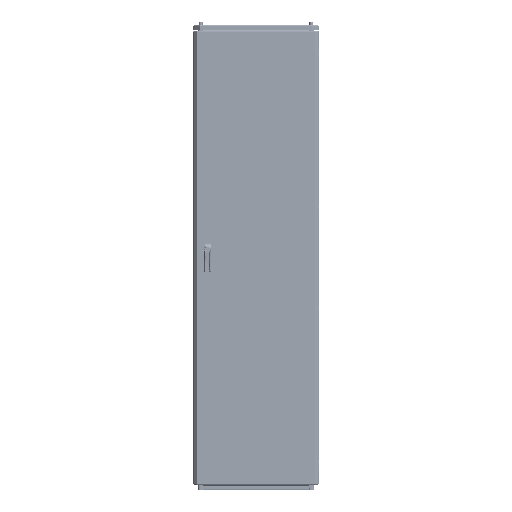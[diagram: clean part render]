
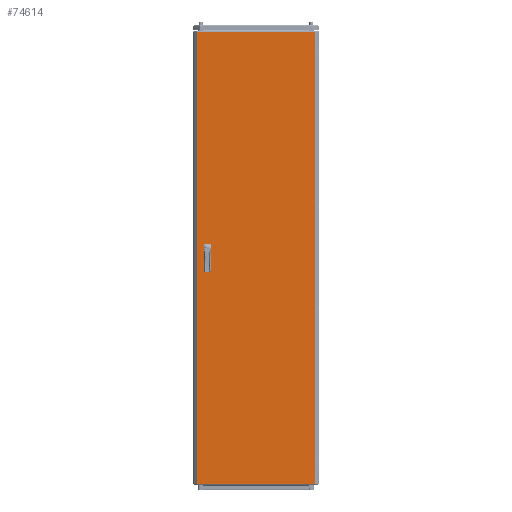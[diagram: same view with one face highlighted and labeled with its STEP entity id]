
A CAD part, top view. The second image highlights one B-rep face of the part: STEP entity #74614.
In plain terms, the highlighted planar face has unit normal (0, 0, 1).
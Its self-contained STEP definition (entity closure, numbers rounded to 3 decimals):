
#566 = CARTESIAN_POINT ( 'NONE',  ( -277.875, 1069.5, 0. ) ) ;
#1521 = CARTESIAN_POINT ( 'NONE',  ( -217.5, 12.5, 0. ) ) ;
#2499 = LINE ( 'NONE', #24052, #220659 ) ;
#5992 = CARTESIAN_POINT ( 'NONE',  ( -217.5, 12.5, 0. ) ) ;
#8993 = ORIENTED_EDGE ( 'NONE', *, *, #128355, .F. ) ;
#12618 = LINE ( 'NONE', #90049, #149383 ) ;
#13676 = CARTESIAN_POINT ( 'NONE',  ( -217.5, 62.5, 0. ) ) ;
#14215 = ORIENTED_EDGE ( 'NONE', *, *, #154671, .F. ) ;
#14732 = DIRECTION ( 'NONE',  ( 0., -1., 0. ) ) ;
#23560 = CARTESIAN_POINT ( 'NONE',  ( 0., 0., 0. ) ) ;
#24052 = CARTESIAN_POINT ( 'NONE',  ( -242.5, -12.5, 0. ) ) ;
#27271 = VECTOR ( 'NONE', #248994, 1000. ) ;
#28678 = VECTOR ( 'NONE', #154852, 1000. ) ;
#33123 = VERTEX_POINT ( 'NONE', #199827 ) ;
#33244 = VECTOR ( 'NONE', #160189, 1000. ) ;
#34780 = EDGE_CURVE ( 'NONE', #221251, #87042, #190807, .T. ) ;
#38385 = CARTESIAN_POINT ( 'NONE',  ( -217.5, -62.5, 0. ) ) ;
#38667 = LINE ( 'NONE', #566, #178479 ) ;
#40114 = DIRECTION ( 'NONE',  ( 0., 0., -1. ) ) ;
#41814 = ORIENTED_EDGE ( 'NONE', *, *, #226623, .T. ) ;
#46475 = VERTEX_POINT ( 'NONE', #120605 ) ;
#49004 = EDGE_LOOP ( 'NONE', ( #60722, #242289, #41814, #221838 ) ) ;
#49808 = VERTEX_POINT ( 'NONE', #137464 ) ;
#58101 = VERTEX_POINT ( 'NONE', #85075 ) ;
#60722 = ORIENTED_EDGE ( 'NONE', *, *, #116975, .T. ) ;
#66853 = ORIENTED_EDGE ( 'NONE', *, *, #34780, .F. ) ;
#67558 = CARTESIAN_POINT ( 'NONE',  ( -217.5, -12.5, 0. ) ) ;
#67959 = VERTEX_POINT ( 'NONE', #171239 ) ;
#74614 = ADVANCED_FACE ( 'NONE', ( #197517, #103515, #158238 ), #80727, .F. ) ;
#77366 = CARTESIAN_POINT ( 'NONE',  ( -242.5, -62.5, 0. ) ) ;
#78154 = EDGE_CURVE ( 'NONE', #46475, #221251, #12618, .T. ) ;
#80727 = PLANE ( 'NONE',  #160445 ) ;
#85075 = CARTESIAN_POINT ( 'NONE',  ( -242.5, 62.5, 0. ) ) ;
#86837 = LINE ( 'NONE', #88070, #238210 ) ;
#87042 = VERTEX_POINT ( 'NONE', #67558 ) ;
#87470 = ORIENTED_EDGE ( 'NONE', *, *, #103875, .F. ) ;
#88070 = CARTESIAN_POINT ( 'NONE',  ( -277.875, -1069.5, 0. ) ) ;
#90049 = CARTESIAN_POINT ( 'NONE',  ( -242.5, -62.5, 0. ) ) ;
#90473 = EDGE_LOOP ( 'NONE', ( #8993, #87470, #144448, #14215 ) ) ;
#91420 = DIRECTION ( 'NONE',  ( 1., 0., 0. ) ) ;
#96489 = VECTOR ( 'NONE', #91420, 1000. ) ;
#103515 = FACE_BOUND ( 'NONE', #187463, .T. ) ;
#103875 = EDGE_CURVE ( 'NONE', #233019, #114229, #112078, .T. ) ;
#107530 = LINE ( 'NONE', #77366, #28678 ) ;
#109235 = CARTESIAN_POINT ( 'NONE',  ( -217.5, -62.5, 0. ) ) ;
#111743 = CARTESIAN_POINT ( 'NONE',  ( -242.5, 12.5, 0. ) ) ;
#112078 = LINE ( 'NONE', #1521, #226584 ) ;
#114229 = VERTEX_POINT ( 'NONE', #13676 ) ;
#116975 = EDGE_CURVE ( 'NONE', #217902, #204511, #250244, .T. ) ;
#118585 = VECTOR ( 'NONE', #170546, 1000. ) ;
#120243 = EDGE_CURVE ( 'NONE', #204511, #33123, #38667, .T. ) ;
#120605 = CARTESIAN_POINT ( 'NONE',  ( -242.5, -62.5, 0. ) ) ;
#128355 = EDGE_CURVE ( 'NONE', #114229, #58101, #213105, .T. ) ;
#129644 = CARTESIAN_POINT ( 'NONE',  ( 277.875, -1069.5, 0. ) ) ;
#135638 = CARTESIAN_POINT ( 'NONE',  ( -242.5, 62.5, 0. ) ) ;
#136157 = DIRECTION ( 'NONE',  ( 0., 1., 0. ) ) ;
#137464 = CARTESIAN_POINT ( 'NONE',  ( -242.5, -12.5, 0. ) ) ;
#144448 = ORIENTED_EDGE ( 'NONE', *, *, #197143, .F. ) ;
#149383 = VECTOR ( 'NONE', #172585, 1000. ) ;
#149955 = CARTESIAN_POINT ( 'NONE',  ( 277.875, -1069.5, 0. ) ) ;
#154474 = EDGE_CURVE ( 'NONE', #246993, #217902, #86837, .T. ) ;
#154671 = EDGE_CURVE ( 'NONE', #58101, #67959, #214065, .T. ) ;
#154852 = DIRECTION ( 'NONE',  ( 0., -1., 0. ) ) ;
#158238 = FACE_OUTER_BOUND ( 'NONE', #49004, .T. ) ;
#158466 = DIRECTION ( 'NONE',  ( -1., 0., 0. ) ) ;
#160189 = DIRECTION ( 'NONE',  ( 0., -1., 0. ) ) ;
#160260 = EDGE_CURVE ( 'NONE', #49808, #46475, #107530, .T. ) ;
#160445 = AXIS2_PLACEMENT_3D ( 'NONE', #23560, #40114, #235698 ) ;
#164113 = EDGE_CURVE ( 'NONE', #87042, #49808, #2499, .T. ) ;
#164734 = CARTESIAN_POINT ( 'NONE',  ( 277.875, 1069.5, 0. ) ) ;
#170546 = DIRECTION ( 'NONE',  ( 0., 1., 0. ) ) ;
#171239 = CARTESIAN_POINT ( 'NONE',  ( -242.5, 12.5, 0. ) ) ;
#172259 = VECTOR ( 'NONE', #158466, 1000. ) ;
#172585 = DIRECTION ( 'NONE',  ( 1., 0., 0. ) ) ;
#174726 = CARTESIAN_POINT ( 'NONE',  ( -242.5, 12.5, 0. ) ) ;
#178013 = CARTESIAN_POINT ( 'NONE',  ( -277.875, -1069.5, 0. ) ) ;
#178479 = VECTOR ( 'NONE', #249561, 1000. ) ;
#185413 = VECTOR ( 'NONE', #14732, 1000. ) ;
#185880 = DIRECTION ( 'NONE',  ( 1., 0., 0. ) ) ;
#187463 = EDGE_LOOP ( 'NONE', ( #199303, #66853, #205725, #226010 ) ) ;
#188526 = CARTESIAN_POINT ( 'NONE',  ( -277.875, -1069.5, 0. ) ) ;
#190807 = LINE ( 'NONE', #38385, #118585 ) ;
#197143 = EDGE_CURVE ( 'NONE', #67959, #233019, #226078, .T. ) ;
#197517 = FACE_BOUND ( 'NONE', #90473, .T. ) ;
#199303 = ORIENTED_EDGE ( 'NONE', *, *, #164113, .F. ) ;
#199827 = CARTESIAN_POINT ( 'NONE',  ( -277.875, 1069.5, 0. ) ) ;
#204511 = VERTEX_POINT ( 'NONE', #164734 ) ;
#205725 = ORIENTED_EDGE ( 'NONE', *, *, #78154, .F. ) ;
#213105 = LINE ( 'NONE', #135638, #172259 ) ;
#214065 = LINE ( 'NONE', #174726, #185413 ) ;
#214619 = DIRECTION ( 'NONE',  ( -1., 0., 0. ) ) ;
#217902 = VERTEX_POINT ( 'NONE', #129644 ) ;
#220659 = VECTOR ( 'NONE', #214619, 1000. ) ;
#221251 = VERTEX_POINT ( 'NONE', #109235 ) ;
#221838 = ORIENTED_EDGE ( 'NONE', *, *, #154474, .T. ) ;
#226010 = ORIENTED_EDGE ( 'NONE', *, *, #160260, .F. ) ;
#226078 = LINE ( 'NONE', #111743, #96489 ) ;
#226584 = VECTOR ( 'NONE', #136157, 1000. ) ;
#226623 = EDGE_CURVE ( 'NONE', #33123, #246993, #236416, .T. ) ;
#233019 = VERTEX_POINT ( 'NONE', #5992 ) ;
#235698 = DIRECTION ( 'NONE',  ( -1., 0., 0. ) ) ;
#236416 = LINE ( 'NONE', #178013, #33244 ) ;
#238210 = VECTOR ( 'NONE', #185880, 1000. ) ;
#242289 = ORIENTED_EDGE ( 'NONE', *, *, #120243, .T. ) ;
#246993 = VERTEX_POINT ( 'NONE', #188526 ) ;
#248994 = DIRECTION ( 'NONE',  ( 0., 1., 0. ) ) ;
#249561 = DIRECTION ( 'NONE',  ( -1., 0., 0. ) ) ;
#250244 = LINE ( 'NONE', #149955, #27271 ) ;
